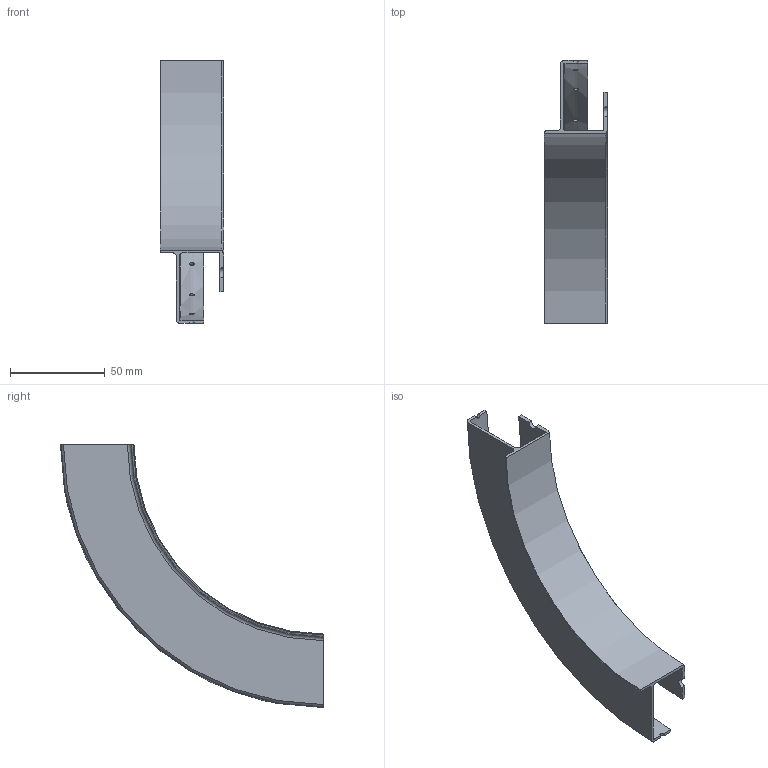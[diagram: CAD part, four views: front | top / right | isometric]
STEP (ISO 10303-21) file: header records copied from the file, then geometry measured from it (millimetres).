
FILE_DESCRIPTION(/* description */ (''),/* implementation_level */ '2;1');
FILE_NAME(/* name */ 'sagflans.step',/* time_stamp */ '2023-10-29T00:31:50+03:00',/* author */ (''),/* organization */ (''),/* preprocessor_version */ 'ST-DEVELOPER v20',/* originating_system */ 'Autodesk Translation Framework v12.14.0.127',/* authorisation */ '');
FILE_SCHEMA (('AUTOMOTIVE_DESIGN { 1 0 10303 214 3 1 1 }'));
Length unit declared in the file: millimetre
Products named in the file (1): FusionComponent
Bounding box: 33.38 x 138.75 x 138.75 mm (x, y, z)
Volume: 29486.5 mm3; surface area: 37615.8 mm2
Topology: 1 solids, 1 shells, 42 faces, 132 edges, 92 vertices
Faces by surface type: cylinder 22, plane 12, torus 7, bspline 1
Full cylindrical faces by diameter (mm): 2.5 x6, 5 x6
Entity records: 2027 total; most frequent: CARTESIAN_POINT 768, ORIENTED_EDGE 264, DIRECTION 236, EDGE_CURVE 132, VERTEX_POINT 92, AXIS2_PLACEMENT_3D 92, EDGE_LOOP 66, LINE 52
